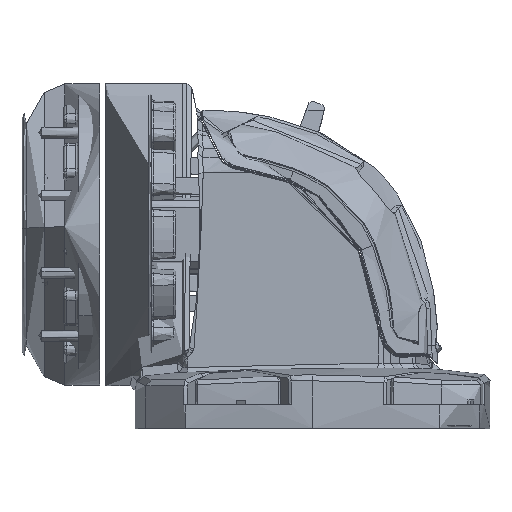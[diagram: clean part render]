
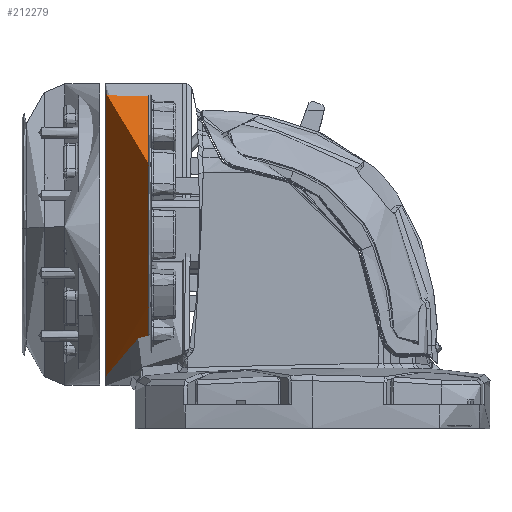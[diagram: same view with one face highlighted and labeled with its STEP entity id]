
A CAD part, top view. The second image highlights one B-rep face of the part: STEP entity #212279.
In plain terms, the highlighted conical face has half-angle 1.5 degrees and reference radius 50.545 mm.
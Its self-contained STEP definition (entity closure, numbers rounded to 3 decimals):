
#499 = CARTESIAN_POINT ( 'NONE',  ( 202.11, -82.182, -27.955 ) ) ;
#1239 = CARTESIAN_POINT ( 'NONE',  ( 202.11, -108.701, -52.784 ) ) ;
#1985 = CARTESIAN_POINT ( 'NONE',  ( 202.11, -145.006, -51.589 ) ) ;
#2749 = CARTESIAN_POINT ( 'NONE',  ( 202.11, -137.724, -54.277 ) ) ;
#3521 = CARTESIAN_POINT ( 'NONE',  ( 202.11, -131.616, -55.493 ) ) ;
#18070 = CARTESIAN_POINT ( 'NONE',  ( 202.11, -86.834, -36.01 ) ) ;
#18824 = DIRECTION ( 'NONE',  ( 1., 0., 0. ) ) ;
#18825 = CARTESIAN_POINT ( 'NONE',  ( 202.11, -140.692, -53.376 ) ) ;
#19562 = CARTESIAN_POINT ( 'NONE',  ( 202.11, -150.47, -48.669 ) ) ;
#27172 = ORIENTED_EDGE ( 'NONE', *, *, #136925, .T. ) ;
#30407 = VERTEX_POINT ( 'NONE', #85649 ) ;
#35579 = B_SPLINE_CURVE_WITH_KNOTS ( 'NONE', 3,
 ( #211631, #107165, #122457, #36364, #56132, #139988, #177291, #499, #70673, #69938, #124692, #18070, #191823, #35628, #193315, #210856, #141470, #90386, #53127, #55366, #210105, #1239, #175050, #72945, #212387, #192561, #209366, #106413, #88163, #123202, #3521, #2749, #18825, #1985, #123954, #89650, #19562, #37110, #159026, #54613, #162775, #110205, #129239, #94154, #213156, #214654, #41614, #146026, #161271, #213907, #197831, #162026 ),
 .UNSPECIFIED., .F., .F.,
 ( 4, 2, 2, 2, 2, 2, 2, 2, 2, 2, 2, 2, 2, 2, 2, 2, 2, 2, 2, 2, 2, 2, 2, 2, 2, 4 ),
 ( 0., 0.062, 0.094, 0.125, 0.156, 0.187, 0.219, 0.25, 0.312, 0.344, 0.375, 0.406, 0.437, 0.469, 0.5, 0.562, 0.625, 0.656, 0.687, 0.719, 0.75, 0.812, 0.844, 0.875, 0.937, 1. ),
 .UNSPECIFIED. ) ;
#35628 = CARTESIAN_POINT ( 'NONE',  ( 202.11, -89.727, -39.655 ) ) ;
#36364 = CARTESIAN_POINT ( 'NONE',  ( 202.11, -79.19, -19.143 ) ) ;
#37110 = CARTESIAN_POINT ( 'NONE',  ( 202.11, -153.061, -46.938 ) ) ;
#41614 = CARTESIAN_POINT ( 'NONE',  ( 202.11, -168.642, -27.95 ) ) ;
#43034 = FACE_OUTER_BOUND ( 'NONE', #136675, .T. ) ;
#48784 = CARTESIAN_POINT ( 'NONE',  ( 187.715, -125.411, -8.361 ) ) ;
#50401 = AXIS2_PLACEMENT_3D ( 'NONE', #209364, #18824, #191822 ) ;
#51236 = VECTOR ( 'NONE', #178940, 1000. ) ;
#53127 = CARTESIAN_POINT ( 'NONE',  ( 202.11, -101.686, -49.468 ) ) ;
#54613 = CARTESIAN_POINT ( 'NONE',  ( 202.11, -156.705, -44.046 ) ) ;
#55366 = CARTESIAN_POINT ( 'NONE',  ( 202.11, -104.42, -50.929 ) ) ;
#56132 = CARTESIAN_POINT ( 'NONE',  ( 202.11, -79.567, -20.649 ) ) ;
#69938 = CARTESIAN_POINT ( 'NONE',  ( 202.11, -84.306, -32.09 ) ) ;
#70673 = CARTESIAN_POINT ( 'NONE',  ( 202.11, -82.845, -29.357 ) ) ;
#72945 = CARTESIAN_POINT ( 'NONE',  ( 202.11, -113.126, -54.206 ) ) ;
#80874 = EDGE_CURVE ( 'NONE', #30407, #164227, #225897, .T. ) ;
#83928 = CONICAL_SURFACE ( 'NONE', #50401, 50.545, 0.026 ) ;
#85649 = CARTESIAN_POINT ( 'NONE',  ( 187.715, -78.351, -8.361 ) ) ;
#86775 = CARTESIAN_POINT ( 'NONE',  ( 187.715, -172.471, -8.361 ) ) ;
#88163 = CARTESIAN_POINT ( 'NONE',  ( 202.11, -123.862, -55.798 ) ) ;
#89650 = CARTESIAN_POINT ( 'NONE',  ( 202.11, -149.141, -49.466 ) ) ;
#90386 = CARTESIAN_POINT ( 'NONE',  ( 202.11, -100.354, -48.67 ) ) ;
#91052 = CARTESIAN_POINT ( 'NONE',  ( 202.11, -77.974, -8.361 ) ) ;
#91275 = CARTESIAN_POINT ( 'NONE',  ( 187.715, -172.471, -8.361 ) ) ;
#94154 = CARTESIAN_POINT ( 'NONE',  ( 202.11, -165.719, -33.419 ) ) ;
#103575 = EDGE_CURVE ( 'NONE', #164227, #156901, #168827, .T. ) ;
#106413 = CARTESIAN_POINT ( 'NONE',  ( 202.11, -122.309, -55.722 ) ) ;
#107165 = CARTESIAN_POINT ( 'NONE',  ( 202.11, -77.974, -11.476 ) ) ;
#108493 = LINE ( 'NONE', #161411, #51236 ) ;
#110205 = CARTESIAN_POINT ( 'NONE',  ( 202.11, -161.158, -39.699 ) ) ;
#118176 = DIRECTION ( 'NONE',  ( -1., 0., 0. ) ) ;
#119769 = CARTESIAN_POINT ( 'NONE',  ( 202.11, -172.848, -8.361 ) ) ;
#122457 = CARTESIAN_POINT ( 'NONE',  ( 202.11, -78.278, -14.56 ) ) ;
#123202 = CARTESIAN_POINT ( 'NONE',  ( 202.11, -128.532, -55.797 ) ) ;
#123954 = CARTESIAN_POINT ( 'NONE',  ( 202.11, -146.408, -50.926 ) ) ;
#124692 = CARTESIAN_POINT ( 'NONE',  ( 202.11, -85.103, -33.419 ) ) ;
#127811 = ORIENTED_EDGE ( 'NONE', *, *, #135016, .F. ) ;
#129239 = CARTESIAN_POINT ( 'NONE',  ( 202.11, -163.124, -37.304 ) ) ;
#135016 = EDGE_CURVE ( 'NONE', #187804, #156901, #35579, .T. ) ;
#136675 = EDGE_LOOP ( 'NONE', ( #127811, #27172, #187867, #157564 ) ) ;
#136871 = AXIS2_PLACEMENT_3D ( 'NONE', #48784, #118176, #153226 ) ;
#136925 = EDGE_CURVE ( 'NONE', #187804, #30407, #108493, .T. ) ;
#139988 = CARTESIAN_POINT ( 'NONE',  ( 202.11, -80.467, -23.616 ) ) ;
#141470 = CARTESIAN_POINT ( 'NONE',  ( 202.11, -96.469, -46.075 ) ) ;
#146026 = CARTESIAN_POINT ( 'NONE',  ( 202.11, -170.428, -23.637 ) ) ;
#153226 = DIRECTION ( 'NONE',  ( 0., 1., 0. ) ) ;
#156901 = VERTEX_POINT ( 'NONE', #119769 ) ;
#157564 = ORIENTED_EDGE ( 'NONE', *, *, #103575, .T. ) ;
#159026 = CARTESIAN_POINT ( 'NONE',  ( 202.11, -154.308, -46.013 ) ) ;
#161271 = CARTESIAN_POINT ( 'NONE',  ( 202.11, -171.327, -20.672 ) ) ;
#161411 = CARTESIAN_POINT ( 'NONE',  ( 202.11, -77.974, -8.361 ) ) ;
#162026 = CARTESIAN_POINT ( 'NONE',  ( 202.11, -172.848, -8.361 ) ) ;
#162775 = CARTESIAN_POINT ( 'NONE',  ( 202.11, -157.856, -43.002 ) ) ;
#164227 = VERTEX_POINT ( 'NONE', #86775 ) ;
#168827 = LINE ( 'NONE', #91275, #171693 ) ;
#171693 = VECTOR ( 'NONE', #213271, 1000. ) ;
#175050 = CARTESIAN_POINT ( 'NONE',  ( 202.11, -110.161, -53.307 ) ) ;
#177291 = CARTESIAN_POINT ( 'NONE',  ( 202.11, -80.991, -25.079 ) ) ;
#178940 = DIRECTION ( 'NONE',  ( -1., -0.026, 0. ) ) ;
#187804 = VERTEX_POINT ( 'NONE', #91052 ) ;
#187867 = ORIENTED_EDGE ( 'NONE', *, *, #80874, .T. ) ;
#191822 = DIRECTION ( 'NONE',  ( 0., 0., 1. ) ) ;
#191823 = CARTESIAN_POINT ( 'NONE',  ( 202.11, -87.759, -37.258 ) ) ;
#192561 = CARTESIAN_POINT ( 'NONE',  ( 202.11, -117.686, -55.19 ) ) ;
#193315 = CARTESIAN_POINT ( 'NONE',  ( 202.11, -90.771, -40.807 ) ) ;
#197831 = CARTESIAN_POINT ( 'NONE',  ( 202.11, -172.848, -11.473 ) ) ;
#209364 = CARTESIAN_POINT ( 'NONE',  ( 320.809, -125.411, -8.361 ) ) ;
#209366 = CARTESIAN_POINT ( 'NONE',  ( 202.11, -119.222, -55.418 ) ) ;
#210105 = CARTESIAN_POINT ( 'NONE',  ( 202.11, -105.824, -51.593 ) ) ;
#210856 = CARTESIAN_POINT ( 'NONE',  ( 202.11, -94.074, -44.109 ) ) ;
#211631 = CARTESIAN_POINT ( 'NONE',  ( 202.11, -77.974, -8.361 ) ) ;
#212279 = ADVANCED_FACE ( 'NONE', ( #43034 ), #83928, .F. ) ;
#212387 = CARTESIAN_POINT ( 'NONE',  ( 202.11, -114.63, -54.582 ) ) ;
#213156 = CARTESIAN_POINT ( 'NONE',  ( 202.11, -166.517, -32.088 ) ) ;
#213271 = DIRECTION ( 'NONE',  ( 1., -0.026, 0. ) ) ;
#213907 = CARTESIAN_POINT ( 'NONE',  ( 202.11, -172.544, -14.558 ) ) ;
#214654 = CARTESIAN_POINT ( 'NONE',  ( 202.11, -167.978, -29.354 ) ) ;
#225897 = CIRCLE ( 'NONE', #136871, 47.06 ) ;
